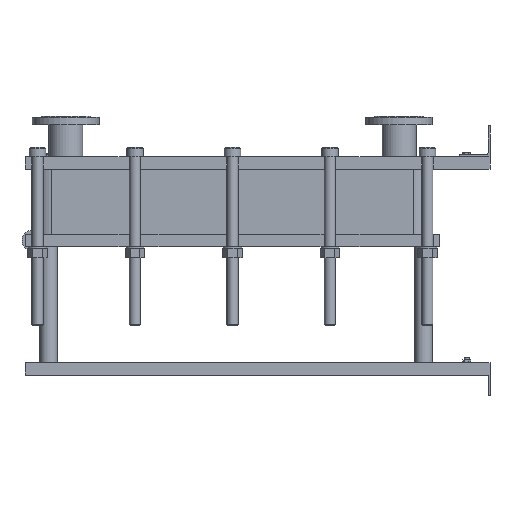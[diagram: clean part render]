
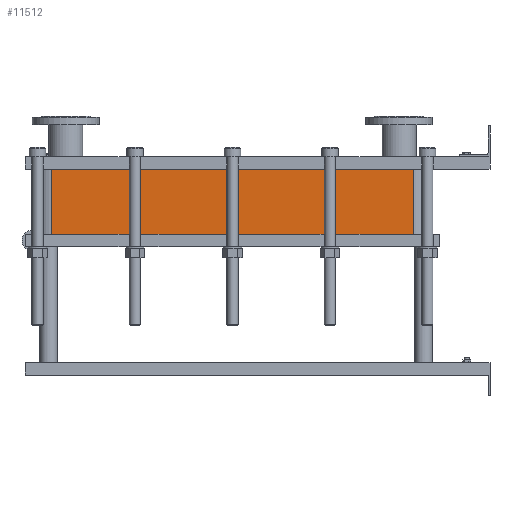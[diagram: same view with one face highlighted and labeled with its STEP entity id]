
A CAD part, left-side view. The second image highlights one B-rep face of the part: STEP entity #11512.
In plain terms, the highlighted planar face has unit normal (-1, 0, 0).
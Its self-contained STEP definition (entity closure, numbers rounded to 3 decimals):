
#1129=LINE('',#23232,#2102);
#1130=LINE('',#23236,#2103);
#1131=LINE('',#23238,#2104);
#1132=LINE('',#23239,#2105);
#2102=VECTOR('',#15887,10.);
#2103=VECTOR('',#15892,10.);
#2104=VECTOR('',#15893,10.);
#2105=VECTOR('',#15894,10.);
#3267=FACE_OUTER_BOUND('',#4093,.T.);
#4093=EDGE_LOOP('',(#10103,#10104,#10105,#10106));
#5642=VERTEX_POINT('',#23229);
#5643=VERTEX_POINT('',#23231);
#5644=VERTEX_POINT('',#23235);
#5645=VERTEX_POINT('',#23237);
#7159=EDGE_CURVE('',#5643,#5642,#1129,.T.);
#7161=EDGE_CURVE('',#5642,#5644,#1130,.T.);
#7162=EDGE_CURVE('',#5645,#5644,#1131,.T.);
#7163=EDGE_CURVE('',#5645,#5643,#1132,.T.);
#10103=ORIENTED_EDGE('',*,*,#7161,.T.);
#10104=ORIENTED_EDGE('',*,*,#7162,.F.);
#10105=ORIENTED_EDGE('',*,*,#7163,.T.);
#10106=ORIENTED_EDGE('',*,*,#7159,.T.);
#10857=PLANE('',#12751);
#11512=ADVANCED_FACE('',(#3267),#10857,.T.);
#12751=AXIS2_PLACEMENT_3D('',#23234,#15890,#15891);
#15887=DIRECTION('',(0.,0.,-1.));
#15890=DIRECTION('center_axis',(-1.,0.,0.));
#15891=DIRECTION('ref_axis',(0.,1.,0.));
#15892=DIRECTION('',(0.,-1.,0.));
#15893=DIRECTION('',(0.,0.,-1.));
#15894=DIRECTION('',(0.,1.,0.));
#23229=CARTESIAN_POINT('',(-200.,1414.,-210.45));
#23231=CARTESIAN_POINT('',(-200.,1414.,0.));
#23232=CARTESIAN_POINT('',(-200.,1414.,0.));
#23234=CARTESIAN_POINT('Origin',(-200.,248.,0.));
#23235=CARTESIAN_POINT('',(-200.,248.,-210.45));
#23236=CARTESIAN_POINT('',(-200.,539.5,-210.45));
#23237=CARTESIAN_POINT('',(-200.,248.,0.));
#23238=CARTESIAN_POINT('',(-200.,248.,0.));
#23239=CARTESIAN_POINT('',(-200.,248.,0.));
